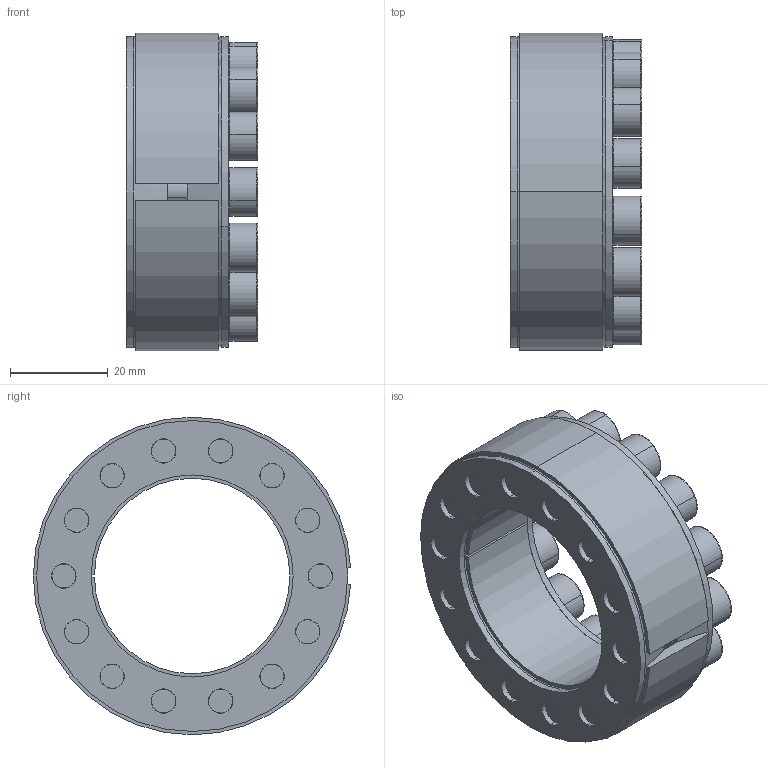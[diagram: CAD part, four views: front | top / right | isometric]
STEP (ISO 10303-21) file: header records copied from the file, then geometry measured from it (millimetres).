
FILE_DESCRIPTION (( 'STEP AP203' ), '1' );
FILE_NAME ('SAPL-D1-40-65.STEP', '2016-08-23T06:09:46', ( '' ), ( '' ), 'SwSTEP 2.0', 'SolidWorks 2015', '' );
FILE_SCHEMA (( 'CONFIG_CONTROL_DESIGN' ));
Length unit declared in the file: millimetre
Products named in the file (1): SAPL-D1-40-65
Bounding box: 27 x 64.96 x 65 mm (x, y, z)
Volume: 43162.6 mm3; surface area: 23999.1 mm2
Topology: 1 solids, 1 shells, 527 faces, 1242 edges, 733 vertices
Faces by surface type: plane 212, cylinder 158, torus 84, cone 73
Entity records: 15076 total; most frequent: DIRECTION 2875, CARTESIAN_POINT 2541, ORIENTED_EDGE 2428, EDGE_CURVE 1214, AXIS2_PLACEMENT_3D 1149, VERTEX_POINT 733, CIRCLE 621, EDGE_LOOP 605
